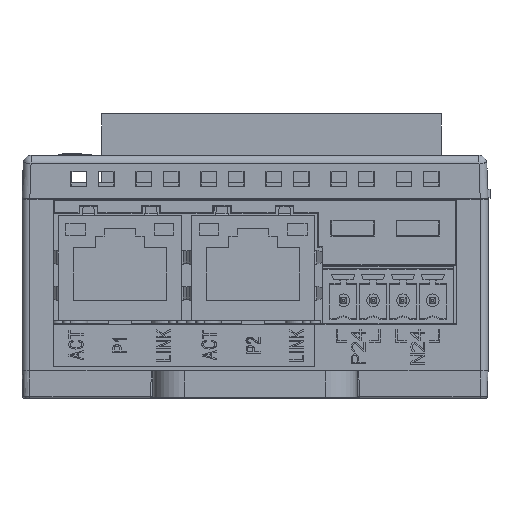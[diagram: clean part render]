
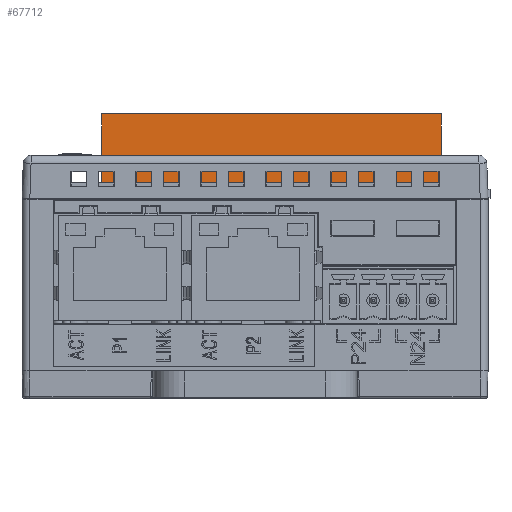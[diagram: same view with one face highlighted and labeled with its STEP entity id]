
A CAD part, front view. The second image highlights one B-rep face of the part: STEP entity #67712.
In plain terms, the highlighted planar face has unit normal (0, -1, 0).
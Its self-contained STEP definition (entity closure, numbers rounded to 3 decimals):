
#1926=DIRECTION('',(1.,0.,0.));
#1927=VECTOR('',#1926,43.3);
#1928=CARTESIAN_POINT('',(-19.55,-19.15,27.5));
#1929=LINE('',#1928,#1927);
#4362=DIRECTION('',(0.,0.,-1.));
#4363=VECTOR('',#4362,8.8);
#4364=CARTESIAN_POINT('',(23.75,-19.15,36.3));
#4365=LINE('',#4364,#4363);
#4370=DIRECTION('',(0.,0.,-1.));
#4371=VECTOR('',#4370,8.8);
#4372=CARTESIAN_POINT('',(-19.55,-19.15,36.3));
#4373=LINE('',#4372,#4371);
#4374=DIRECTION('',(-1.,0.,0.));
#4375=VECTOR('',#4374,43.3);
#4376=CARTESIAN_POINT('',(23.75,-19.15,36.3));
#4377=LINE('',#4376,#4375);
#49795=CARTESIAN_POINT('',(-19.55,-19.15,36.3));
#49797=VERTEX_POINT('',#49795);
#49801=CARTESIAN_POINT('',(23.75,-19.15,36.3));
#49802=VERTEX_POINT('',#49801);
#61715=CARTESIAN_POINT('',(-19.55,-19.15,27.5));
#61717=VERTEX_POINT('',#61715);
#61718=CARTESIAN_POINT('',(23.75,-19.15,27.5));
#61719=VERTEX_POINT('',#61718);
#67700=CARTESIAN_POINT('',(2.1,-19.15,31.7));
#67701=DIRECTION('',(0.,1.,0.));
#67702=DIRECTION('',(1.,0.,0.));
#67703=AXIS2_PLACEMENT_3D('',#67700,#67701,#67702);
#67704=PLANE('',#67703);
#67705=ORIENTED_EDGE('',*,*,#63857,.F.);
#67706=ORIENTED_EDGE('',*,*,#67646,.F.);
#67708=ORIENTED_EDGE('',*,*,#67707,.F.);
#67709=ORIENTED_EDGE('',*,*,#67685,.T.);
#67710=EDGE_LOOP('',(#67705,#67706,#67708,#67709));
#67711=FACE_OUTER_BOUND('',#67710,.F.);
#67712=ADVANCED_FACE('',(#67711),#67704,.F.);
#63857=EDGE_CURVE('',#61717,#61719,#1929,.T.);
#67646=EDGE_CURVE('',#49797,#61717,#4373,.T.);
#67685=EDGE_CURVE('',#49802,#61719,#4365,.T.);
#67707=EDGE_CURVE('',#49802,#49797,#4377,.T.);
